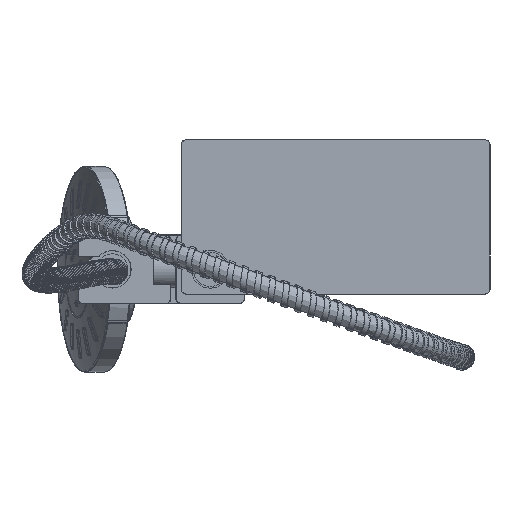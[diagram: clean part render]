
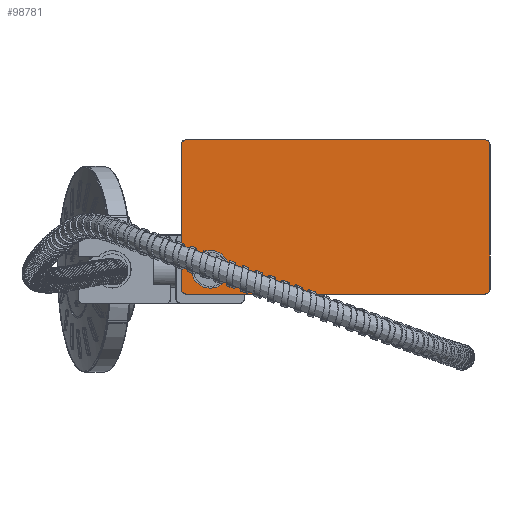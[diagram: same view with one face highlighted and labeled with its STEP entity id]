
A CAD part, front view. The second image highlights one B-rep face of the part: STEP entity #98781.
In plain terms, the highlighted planar face has unit normal (0, -1, 0).
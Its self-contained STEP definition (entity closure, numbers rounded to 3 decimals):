
#197 = DIRECTION ( 'NONE',  ( 0., -1., 0. ) ) ;
#416 = DIRECTION ( 'NONE',  ( 1., 0., 0. ) ) ;
#598 = ORIENTED_EDGE ( 'NONE', *, *, #59928, .T. ) ;
#1199 = EDGE_CURVE ( 'NONE', #93073, #19818, #88846, .T. ) ;
#2300 = VECTOR ( 'NONE', #16005, 1000. ) ;
#5881 = DIRECTION ( 'NONE',  ( 0., -1., 0. ) ) ;
#7271 = CARTESIAN_POINT ( 'NONE',  ( 160., 0., -14.4 ) ) ;
#7492 = AXIS2_PLACEMENT_3D ( 'NONE', #61636, #197, #51667 ) ;
#8733 = PLANE ( 'NONE',  #30886 ) ;
#9277 = LINE ( 'NONE', #43589, #26924 ) ;
#9684 = AXIS2_PLACEMENT_3D ( 'NONE', #22025, #28161, #71884 ) ;
#10195 = VERTEX_POINT ( 'NONE', #44401 ) ;
#10394 = DIRECTION ( 'NONE',  ( 0., 0., -1. ) ) ;
#12073 = ORIENTED_EDGE ( 'NONE', *, *, #21412, .T. ) ;
#12543 = AXIS2_PLACEMENT_3D ( 'NONE', #35232, #69030, #45736 ) ;
#12979 = CARTESIAN_POINT ( 'NONE',  ( 160., 0., -14.4 ) ) ;
#14972 = DIRECTION ( 'NONE',  ( 0., -1., 0. ) ) ;
#15406 = DIRECTION ( 'NONE',  ( 0., 1., 0. ) ) ;
#16005 = DIRECTION ( 'NONE',  ( -1., 0., 0. ) ) ;
#18644 = EDGE_CURVE ( 'NONE', #44173, #64254, #9277, .T. ) ;
#18812 = CARTESIAN_POINT ( 'NONE',  ( 0., 0., 11. ) ) ;
#19818 = VERTEX_POINT ( 'NONE', #7271 ) ;
#21412 = EDGE_CURVE ( 'NONE', #10195, #31768, #66400, .T. ) ;
#22025 = CARTESIAN_POINT ( 'NONE',  ( 0., 0., 0. ) ) ;
#23767 = CARTESIAN_POINT ( 'NONE',  ( 162.9, 0., 72.5 ) ) ;
#26924 = VECTOR ( 'NONE', #10394, 1000. ) ;
#28161 = DIRECTION ( 'NONE',  ( 0., -1., 0. ) ) ;
#29091 = VERTEX_POINT ( 'NONE', #29993 ) ;
#29993 = CARTESIAN_POINT ( 'NONE',  ( 0., 0., -11. ) ) ;
#30886 = AXIS2_PLACEMENT_3D ( 'NONE', #91283, #15406, #416 ) ;
#31768 = VERTEX_POINT ( 'NONE', #54735 ) ;
#35232 = CARTESIAN_POINT ( 'NONE',  ( 160., 0., 72.5 ) ) ;
#35737 = ORIENTED_EDGE ( 'NONE', *, *, #69699, .T. ) ;
#39609 = DIRECTION ( 'NONE',  ( 0., 0., 1. ) ) ;
#39740 = CIRCLE ( 'NONE', #105301, 11. ) ;
#40899 = CARTESIAN_POINT ( 'NONE',  ( -14., 0., 75.4 ) ) ;
#41938 = FACE_BOUND ( 'NONE', #49867, .T. ) ;
#42556 = AXIS2_PLACEMENT_3D ( 'NONE', #82011, #14972, #80380 ) ;
#43589 = CARTESIAN_POINT ( 'NONE',  ( -16.9, 0., -11.5 ) ) ;
#44173 = VERTEX_POINT ( 'NONE', #61577 ) ;
#44294 = DIRECTION ( 'NONE',  ( 0., 0., 1. ) ) ;
#44311 = CARTESIAN_POINT ( 'NONE',  ( -14., 0., -14.4 ) ) ;
#44401 = CARTESIAN_POINT ( 'NONE',  ( 160., 0., 75.4 ) ) ;
#44725 = ORIENTED_EDGE ( 'NONE', *, *, #62726, .F. ) ;
#45389 = CARTESIAN_POINT ( 'NONE',  ( 162.9, 0., 72.5 ) ) ;
#45736 = DIRECTION ( 'NONE',  ( 0., 0., 1. ) ) ;
#46567 = CIRCLE ( 'NONE', #50128, 2.9 ) ;
#49867 = EDGE_LOOP ( 'NONE', ( #82262, #44725 ) ) ;
#50128 = AXIS2_PLACEMENT_3D ( 'NONE', #73977, #5881, #39609 ) ;
#50882 = DIRECTION ( 'NONE',  ( 0., 0., 1. ) ) ;
#51667 = DIRECTION ( 'NONE',  ( 0., 0., 1. ) ) ;
#52509 = VERTEX_POINT ( 'NONE', #18812 ) ;
#52546 = CARTESIAN_POINT ( 'NONE',  ( 0., 0., 0. ) ) ;
#53721 = LINE ( 'NONE', #45389, #71733 ) ;
#54735 = CARTESIAN_POINT ( 'NONE',  ( -14., 0., 75.4 ) ) ;
#56415 = ORIENTED_EDGE ( 'NONE', *, *, #1199, .T. ) ;
#57406 = CIRCLE ( 'NONE', #9684, 11. ) ;
#58625 = ORIENTED_EDGE ( 'NONE', *, *, #81479, .T. ) ;
#58780 = CIRCLE ( 'NONE', #7492, 2.9 ) ;
#59191 = DIRECTION ( 'NONE',  ( 0., -1., 0. ) ) ;
#59928 = EDGE_CURVE ( 'NONE', #64254, #93073, #58780, .T. ) ;
#61577 = CARTESIAN_POINT ( 'NONE',  ( -16.9, 0., 72.5 ) ) ;
#61636 = CARTESIAN_POINT ( 'NONE',  ( -14., 0., -11.5 ) ) ;
#62625 = EDGE_CURVE ( 'NONE', #29091, #52509, #39740, .T. ) ;
#62726 = EDGE_CURVE ( 'NONE', #52509, #29091, #57406, .T. ) ;
#64254 = VERTEX_POINT ( 'NONE', #90972 ) ;
#66095 = VERTEX_POINT ( 'NONE', #23767 ) ;
#66400 = LINE ( 'NONE', #40899, #2300 ) ;
#67860 = ORIENTED_EDGE ( 'NONE', *, *, #18644, .T. ) ;
#69030 = DIRECTION ( 'NONE',  ( 0., -1., 0. ) ) ;
#69111 = EDGE_CURVE ( 'NONE', #66095, #10195, #70887, .T. ) ;
#69699 = EDGE_CURVE ( 'NONE', #31768, #44173, #85039, .T. ) ;
#70887 = CIRCLE ( 'NONE', #12543, 2.9 ) ;
#71733 = VECTOR ( 'NONE', #44294, 1000. ) ;
#71884 = DIRECTION ( 'NONE',  ( 0., 0., 1. ) ) ;
#72657 = EDGE_CURVE ( 'NONE', #19818, #93369, #46567, .T. ) ;
#73977 = CARTESIAN_POINT ( 'NONE',  ( 160., 0., -11.5 ) ) ;
#74642 = FACE_OUTER_BOUND ( 'NONE', #96265, .T. ) ;
#80380 = DIRECTION ( 'NONE',  ( 0., 0., 1. ) ) ;
#80869 = CARTESIAN_POINT ( 'NONE',  ( 162.9, 0., -11.5 ) ) ;
#81479 = EDGE_CURVE ( 'NONE', #93369, #66095, #53721, .T. ) ;
#82011 = CARTESIAN_POINT ( 'NONE',  ( -14., 0., 72.5 ) ) ;
#82262 = ORIENTED_EDGE ( 'NONE', *, *, #62625, .F. ) ;
#84442 = ORIENTED_EDGE ( 'NONE', *, *, #69111, .T. ) ;
#85039 = CIRCLE ( 'NONE', #42556, 2.9 ) ;
#88846 = LINE ( 'NONE', #12979, #109476 ) ;
#90972 = CARTESIAN_POINT ( 'NONE',  ( -16.9, 0., -11.5 ) ) ;
#91283 = CARTESIAN_POINT ( 'NONE',  ( 0., 0., 0. ) ) ;
#93073 = VERTEX_POINT ( 'NONE', #44311 ) ;
#93369 = VERTEX_POINT ( 'NONE', #80869 ) ;
#96265 = EDGE_LOOP ( 'NONE', ( #67860, #598, #56415, #102795, #58625, #84442, #12073, #35737 ) ) ;
#98781 = ADVANCED_FACE ( 'NONE', ( #41938, #74642 ), #8733, .F. ) ;
#102795 = ORIENTED_EDGE ( 'NONE', *, *, #72657, .T. ) ;
#104943 = DIRECTION ( 'NONE',  ( 1., 0., 0. ) ) ;
#105301 = AXIS2_PLACEMENT_3D ( 'NONE', #52546, #59191, #50882 ) ;
#109476 = VECTOR ( 'NONE', #104943, 1000. ) ;
